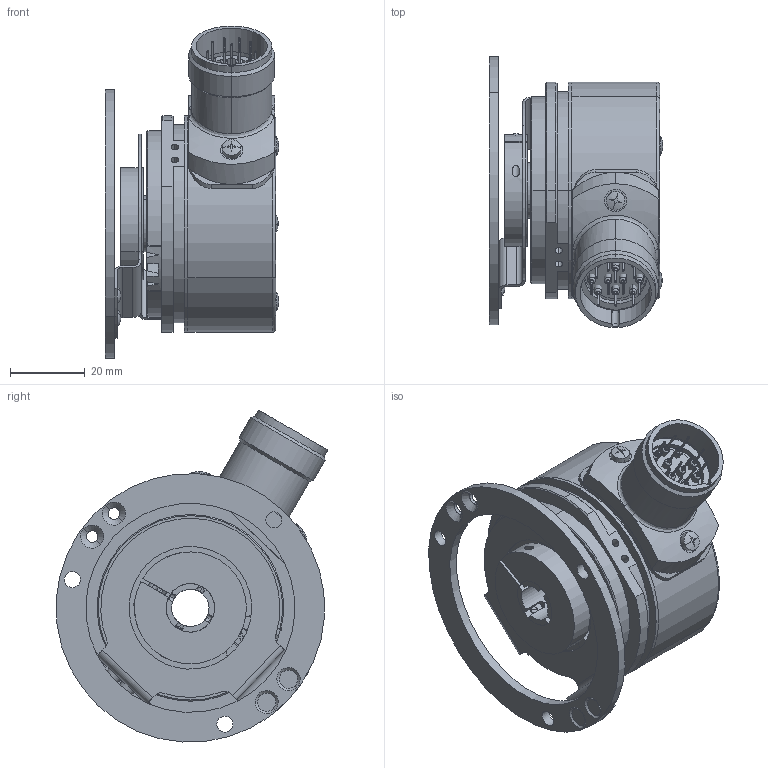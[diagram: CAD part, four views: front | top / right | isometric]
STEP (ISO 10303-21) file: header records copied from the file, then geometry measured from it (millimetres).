
FILE_DESCRIPTION (( 'STEP AP214' ), '1' );
FILE_NAME ('5825.36X2.XXXX.STEP', '2008-08-05T07:31:05', ( 'admin' ), ( 'Fritz Kübler GmbH' ), 'SwSTEP 2.0', 'SolidWorks 2008', '' );
FILE_SCHEMA (( 'AUTOMOTIVE_DESIGN' ));
Length unit declared in the file: millimetre
Products named in the file (1): 5825.36X2.XXXX
Bounding box: 46.58 x 72.74 x 88.94 mm (x, y, z)
Surface area: 31565.7 mm2 (no closed solid volume)
Topology: 0 solids, 47 shells, 498 faces, 1436 edges, 975 vertices
Faces by surface type: cylinder 202, plane 184, sphere 42, torus 35, cone 31, bspline 4
Entity records: 23540 total; most frequent: CARTESIAN_POINT 4744, DIRECTION 3025, ORIENTED_EDGE 2447, EDGE_CURVE 1412, AXIS2_PLACEMENT_3D 1224, VERTEX_POINT 975, CIRCLE 729, EDGE_LOOP 601
